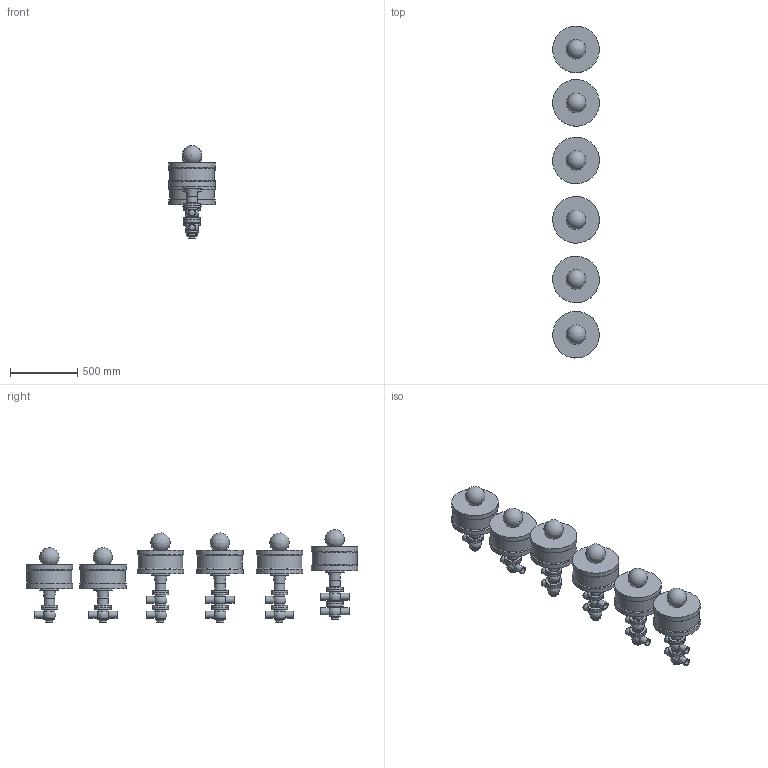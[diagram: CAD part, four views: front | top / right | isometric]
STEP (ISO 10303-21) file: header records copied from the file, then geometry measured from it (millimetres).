
FILE_DESCRIPTION(/* description */ (''),/* implementation_level */ '2;1');
FILE_NAME(/* name */ 'C:\Users\marz-m\Desktop\PDF\BBZQ 3D STEP\BBZQ-DN50-CIL.320.stp',/* time_stamp */ '2018-04-13T15:00:38+02:00',/* author */ ('marz-m'),/* organization */ (''),/* preprocessor_version */ 'ST-DEVELOPER v17',/* originating_system */ 'Autodesk Inventor 2018',/* authorisation */ '');
FILE_SCHEMA (('AUTOMOTIVE_DESIGN { 1 0 10303 214 3 1 1 }'));
Length unit declared in the file: millimetre
Products named in the file (8): BBZQ-DN50-CIL.320; COR-INF-L-BBZQ-DN052X3-SALD; COR-INF-T-BBZQ-DN052X3-SALD; ASSEMBL DN50 BBZQ; CILINDRO 320; SAGOMA-GIOTTO-; CORPO-SUP-INF-BBZQ-L-DN52X3-SALD; CORPO-SUP-INF-BBZQ-T-DN52X3-SALD
Assembly tree (28 placements, depth 2):
  BBZQ-DN50-CIL.320
    COR-INF-L-BBZQ-DN052X3-SALD  x3
    COR-INF-T-BBZQ-DN052X3-SALD  x3
    ASSEMBL DN50 BBZQ  x6
    CILINDRO 320  x6
    SAGOMA-GIOTTO-  x6
    CORPO-SUP-INF-BBZQ-L-DN52X3-SALD  x2
    CORPO-SUP-INF-BBZQ-T-DN52X3-SALD  x2
Bounding box: 348 x 2475.07 x 690.58 mm (x, y, z)
Volume: 119967533 mm3; surface area: 4141663.7 mm2
Topology: 28 solids, 28 shells, 326 faces, 758 edges, 562 vertices
Faces by surface type: cylinder 124, plane 115, torus 32, sphere 31, cone 24
Full cylindrical faces by diameter (mm): 25.4 x6, 46 x21, 52 x21, 69.8 x6, 79 x6, 80 x20, 124 x20, 141 x6, 334 x6, 348 x12
Entity records: 3605 total; most frequent: CARTESIAN_POINT 779, DIRECTION 645, ORIENTED_EDGE 438, AXIS2_PLACEMENT_3D 301, EDGE_CURVE 219, CIRCLE 168, VERTEX_POINT 163, EDGE_LOOP 124
